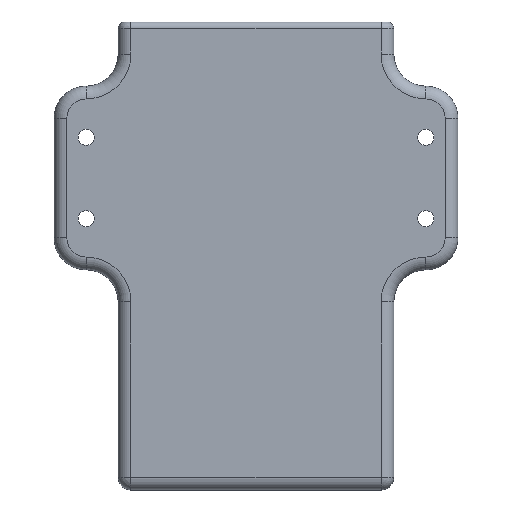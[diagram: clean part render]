
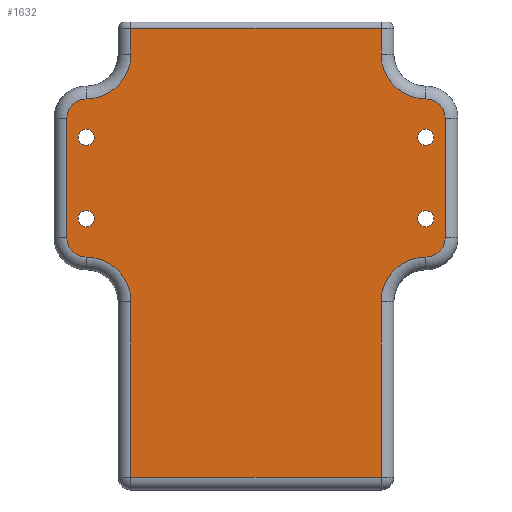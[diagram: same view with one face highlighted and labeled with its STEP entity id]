
A CAD part, front view. The second image highlights one B-rep face of the part: STEP entity #1632.
In plain terms, the highlighted planar face has unit normal (0, -1, 0).
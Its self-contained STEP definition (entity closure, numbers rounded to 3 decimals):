
#32=FACE_BOUND('',#532,.T.);
#33=FACE_BOUND('',#533,.T.);
#34=FACE_BOUND('',#534,.T.);
#35=FACE_BOUND('',#535,.T.);
#62=PLANE('',#1861);
#88=LINE('',#2574,#194);
#136=LINE('',#2757,#242);
#137=LINE('',#2761,#243);
#139=LINE('',#2779,#245);
#140=LINE('',#2792,#246);
#141=LINE('',#2797,#247);
#143=LINE('',#2815,#249);
#145=LINE('',#2830,#251);
#194=VECTOR('',#1968,10.);
#242=VECTOR('',#2164,10.);
#243=VECTOR('',#2169,10.);
#245=VECTOR('',#2191,10.);
#246=VECTOR('',#2210,10.);
#247=VECTOR('',#2215,10.);
#249=VECTOR('',#2237,10.);
#251=VECTOR('',#2257,10.);
#422=FACE_OUTER_BOUND('',#531,.T.);
#531=EDGE_LOOP('',(#1441,#1442,#1443,#1444,#1445,#1446,#1447,#1448,#1449,
#1450,#1451,#1452,#1453,#1454,#1455,#1456));
#532=EDGE_LOOP('',(#1457));
#533=EDGE_LOOP('',(#1458));
#534=EDGE_LOOP('',(#1459));
#535=EDGE_LOOP('',(#1460));
#620=CIRCLE('',#1776,7.);
#623=CIRCLE('',#1780,3.);
#627=CIRCLE('',#1786,3.);
#630=CIRCLE('',#1790,7.);
#633=CIRCLE('',#1796,7.);
#636=CIRCLE('',#1800,3.);
#640=CIRCLE('',#1806,3.);
#643=CIRCLE('',#1810,7.);
#663=CIRCLE('',#1848,1.25);
#665=CIRCLE('',#1852,1.25);
#667=CIRCLE('',#1856,1.25);
#669=CIRCLE('',#1860,1.25);
#701=VERTEX_POINT('',#2564);
#703=VERTEX_POINT('',#2570);
#751=VERTEX_POINT('',#2729);
#753=VERTEX_POINT('',#2735);
#757=VERTEX_POINT('',#2759);
#758=VERTEX_POINT('',#2763);
#760=VERTEX_POINT('',#2769);
#762=VERTEX_POINT('',#2775);
#764=VERTEX_POINT('',#2781);
#766=VERTEX_POINT('',#2787);
#768=VERTEX_POINT('',#2795);
#770=VERTEX_POINT('',#2801);
#772=VERTEX_POINT('',#2807);
#774=VERTEX_POINT('',#2813);
#776=VERTEX_POINT('',#2819);
#778=VERTEX_POINT('',#2825);
#803=VERTEX_POINT('',#2931);
#805=VERTEX_POINT('',#2939);
#807=VERTEX_POINT('',#2947);
#809=VERTEX_POINT('',#2955);
#855=EDGE_CURVE('',#701,#703,#88,.T.);
#944=EDGE_CURVE('',#751,#753,#136,.T.);
#946=EDGE_CURVE('',#753,#757,#137,.T.);
#949=EDGE_CURVE('',#757,#758,#620,.T.);
#952=EDGE_CURVE('',#758,#760,#623,.T.);
#955=EDGE_CURVE('',#760,#762,#139,.T.);
#958=EDGE_CURVE('',#762,#764,#627,.T.);
#961=EDGE_CURVE('',#764,#766,#630,.T.);
#962=EDGE_CURVE('',#766,#701,#140,.T.);
#964=EDGE_CURVE('',#768,#751,#141,.T.);
#967=EDGE_CURVE('',#770,#768,#633,.T.);
#970=EDGE_CURVE('',#772,#770,#636,.T.);
#973=EDGE_CURVE('',#774,#772,#143,.T.);
#976=EDGE_CURVE('',#776,#774,#640,.T.);
#979=EDGE_CURVE('',#778,#776,#643,.T.);
#981=EDGE_CURVE('',#703,#778,#145,.T.);
#1022=EDGE_CURVE('',#803,#803,#663,.T.);
#1026=EDGE_CURVE('',#805,#805,#665,.T.);
#1030=EDGE_CURVE('',#807,#807,#667,.T.);
#1034=EDGE_CURVE('',#809,#809,#669,.T.);
#1441=ORIENTED_EDGE('',*,*,#855,.F.);
#1442=ORIENTED_EDGE('',*,*,#962,.F.);
#1443=ORIENTED_EDGE('',*,*,#961,.F.);
#1444=ORIENTED_EDGE('',*,*,#958,.F.);
#1445=ORIENTED_EDGE('',*,*,#955,.F.);
#1446=ORIENTED_EDGE('',*,*,#952,.F.);
#1447=ORIENTED_EDGE('',*,*,#949,.F.);
#1448=ORIENTED_EDGE('',*,*,#946,.F.);
#1449=ORIENTED_EDGE('',*,*,#944,.F.);
#1450=ORIENTED_EDGE('',*,*,#964,.F.);
#1451=ORIENTED_EDGE('',*,*,#967,.F.);
#1452=ORIENTED_EDGE('',*,*,#970,.F.);
#1453=ORIENTED_EDGE('',*,*,#973,.F.);
#1454=ORIENTED_EDGE('',*,*,#976,.F.);
#1455=ORIENTED_EDGE('',*,*,#979,.F.);
#1456=ORIENTED_EDGE('',*,*,#981,.F.);
#1457=ORIENTED_EDGE('',*,*,#1026,.T.);
#1458=ORIENTED_EDGE('',*,*,#1022,.T.);
#1459=ORIENTED_EDGE('',*,*,#1034,.T.);
#1460=ORIENTED_EDGE('',*,*,#1030,.T.);
#1632=ADVANCED_FACE('',(#422,#32,#33,#34,#35),#62,.T.);
#1776=AXIS2_PLACEMENT_3D('',#2767,#2176,#2177);
#1780=AXIS2_PLACEMENT_3D('',#2773,#2184,#2185);
#1786=AXIS2_PLACEMENT_3D('',#2785,#2198,#2199);
#1790=AXIS2_PLACEMENT_3D('',#2790,#2206,#2207);
#1796=AXIS2_PLACEMENT_3D('',#2803,#2221,#2222);
#1800=AXIS2_PLACEMENT_3D('',#2809,#2229,#2230);
#1806=AXIS2_PLACEMENT_3D('',#2821,#2243,#2244);
#1810=AXIS2_PLACEMENT_3D('',#2827,#2251,#2252);
#1848=AXIS2_PLACEMENT_3D('',#2933,#2346,#2347);
#1852=AXIS2_PLACEMENT_3D('',#2941,#2356,#2357);
#1856=AXIS2_PLACEMENT_3D('',#2949,#2366,#2367);
#1860=AXIS2_PLACEMENT_3D('',#2957,#2376,#2377);
#1861=AXIS2_PLACEMENT_3D('',#2958,#2378,#2379);
#1968=DIRECTION('',(1.,0.,0.));
#2164=DIRECTION('',(-1.,0.,0.));
#2169=DIRECTION('',(0.,0.,1.));
#2176=DIRECTION('center_axis',(0.,-1.,0.));
#2177=DIRECTION('ref_axis',(0.707,0.,0.707));
#2184=DIRECTION('center_axis',(0.,1.,0.));
#2185=DIRECTION('ref_axis',(-0.707,0.,-0.707));
#2191=DIRECTION('',(0.,0.,1.));
#2198=DIRECTION('center_axis',(0.,1.,0.));
#2199=DIRECTION('ref_axis',(-0.707,0.,0.707));
#2206=DIRECTION('center_axis',(0.,-1.,0.));
#2207=DIRECTION('ref_axis',(0.707,0.,-0.707));
#2210=DIRECTION('',(0.,0.,1.));
#2215=DIRECTION('',(0.,0.,-1.));
#2221=DIRECTION('center_axis',(0.,-1.,0.));
#2222=DIRECTION('ref_axis',(-0.707,0.,0.707));
#2229=DIRECTION('center_axis',(0.,1.,0.));
#2230=DIRECTION('ref_axis',(0.707,0.,-0.707));
#2237=DIRECTION('',(0.,0.,-1.));
#2243=DIRECTION('center_axis',(0.,1.,0.));
#2244=DIRECTION('ref_axis',(0.707,0.,0.707));
#2251=DIRECTION('center_axis',(0.,-1.,0.));
#2252=DIRECTION('ref_axis',(-0.707,0.,-0.707));
#2257=DIRECTION('',(0.,0.,-1.));
#2346=DIRECTION('center_axis',(0.,1.,0.));
#2347=DIRECTION('ref_axis',(1.,0.,0.));
#2356=DIRECTION('center_axis',(0.,1.,0.));
#2357=DIRECTION('ref_axis',(1.,0.,0.));
#2366=DIRECTION('center_axis',(0.,1.,0.));
#2367=DIRECTION('ref_axis',(1.,0.,0.));
#2376=DIRECTION('center_axis',(0.,1.,0.));
#2377=DIRECTION('ref_axis',(1.,0.,0.));
#2378=DIRECTION('center_axis',(0.,-1.,0.));
#2379=DIRECTION('ref_axis',(1.,0.,0.));
#2564=CARTESIAN_POINT('',(-19.5,-21.5,28.2));
#2570=CARTESIAN_POINT('',(19.5,-21.5,28.2));
#2574=CARTESIAN_POINT('',(-10.75,-21.5,28.2));
#2729=CARTESIAN_POINT('',(19.5,-21.5,-41.8));
#2735=CARTESIAN_POINT('',(-19.5,-21.5,-41.8));
#2757=CARTESIAN_POINT('',(-10.75,-21.5,-41.8));
#2759=CARTESIAN_POINT('',(-19.5,-21.5,-14.467));
#2761=CARTESIAN_POINT('',(-19.5,-21.5,-43.8));
#2763=CARTESIAN_POINT('',(-26.5,-21.5,-7.467));
#2767=CARTESIAN_POINT('Origin',(-26.5,-21.5,-14.467));
#2769=CARTESIAN_POINT('',(-29.5,-21.5,-4.467));
#2773=CARTESIAN_POINT('Origin',(-26.5,-21.5,-4.467));
#2775=CARTESIAN_POINT('',(-29.5,-21.5,14.2));
#2779=CARTESIAN_POINT('',(-29.5,-21.5,-26.633));
#2781=CARTESIAN_POINT('',(-26.5,-21.5,17.2));
#2785=CARTESIAN_POINT('Origin',(-26.5,-21.5,14.2));
#2787=CARTESIAN_POINT('',(-19.5,-21.5,24.2));
#2790=CARTESIAN_POINT('Origin',(-26.5,-21.5,24.2));
#2792=CARTESIAN_POINT('',(-19.5,-21.5,-43.8));
#2795=CARTESIAN_POINT('',(19.5,-21.5,-14.467));
#2797=CARTESIAN_POINT('',(19.5,-21.5,-43.8));
#2801=CARTESIAN_POINT('',(26.5,-21.5,-7.467));
#2803=CARTESIAN_POINT('Origin',(26.5,-21.5,-14.467));
#2807=CARTESIAN_POINT('',(29.5,-21.5,-4.467));
#2809=CARTESIAN_POINT('Origin',(26.5,-21.5,-4.467));
#2813=CARTESIAN_POINT('',(29.5,-21.5,14.2));
#2815=CARTESIAN_POINT('',(29.5,-21.5,-12.3));
#2819=CARTESIAN_POINT('',(26.5,-21.5,17.2));
#2821=CARTESIAN_POINT('Origin',(26.5,-21.5,14.2));
#2825=CARTESIAN_POINT('',(19.5,-21.5,24.2));
#2827=CARTESIAN_POINT('Origin',(26.5,-21.5,24.2));
#2830=CARTESIAN_POINT('',(19.5,-21.5,-43.8));
#2931=CARTESIAN_POINT('',(-27.75,-21.5,11.2));
#2933=CARTESIAN_POINT('Origin',(-26.5,-21.5,11.2));
#2939=CARTESIAN_POINT('',(-27.75,-21.5,-1.467));
#2941=CARTESIAN_POINT('Origin',(-26.5,-21.5,-1.467));
#2947=CARTESIAN_POINT('',(25.25,-21.5,11.2));
#2949=CARTESIAN_POINT('Origin',(26.5,-21.5,11.2));
#2955=CARTESIAN_POINT('',(25.25,-21.5,-1.467));
#2957=CARTESIAN_POINT('Origin',(26.5,-21.5,-1.467));
#2958=CARTESIAN_POINT('Origin',(-21.5,-21.5,-43.8));
